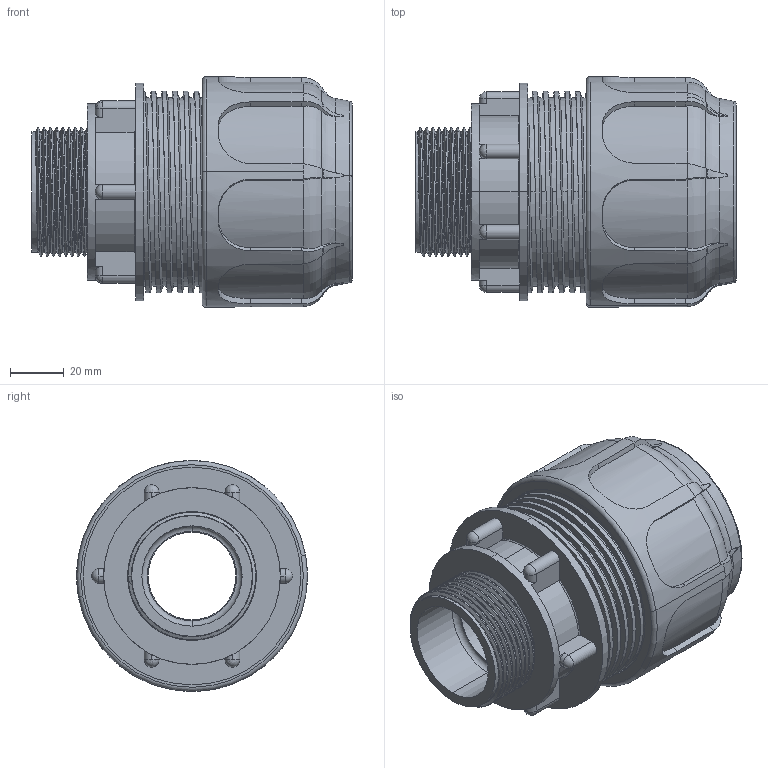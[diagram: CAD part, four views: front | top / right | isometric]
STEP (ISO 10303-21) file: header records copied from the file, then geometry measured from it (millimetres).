
FILE_DESCRIPTION (( 'STEP AP203' ), '1' );
FILE_NAME ('02004.1138.STEP', '2017-05-22T14:16:22', ( '' ), ( '' ), 'SwSTEP 2.0', 'SolidWorks 2011', '' );
FILE_SCHEMA (( 'CONFIG_CONTROL_DESIGN' ));
Length unit declared in the file: millimetre
Products named in the file (3): 02004.1138; 01711_4040; 01770_1138
Assembly tree (2 placements, depth 2):
  02004.1138
    01770_1138
    01711_4040
Bounding box: 119 x 85.8 x 85.8 mm (x, y, z)
Volume: 176665.4 mm3; surface area: 115117.6 mm2
Topology: 2 solids, 2 shells, 445 faces, 1265 edges, 818 vertices
Faces by surface type: cylinder 158, plane 130, torus 112, cone 28, bspline 11, sphere 6
Entity records: 25315 total; most frequent: CARTESIAN_POINT 14407, ORIENTED_EDGE 2500, DIRECTION 1979, EDGE_CURVE 1250, VERTEX_POINT 816, AXIS2_PLACEMENT_3D 794, EDGE_LOOP 456, ADVANCED_FACE 445
